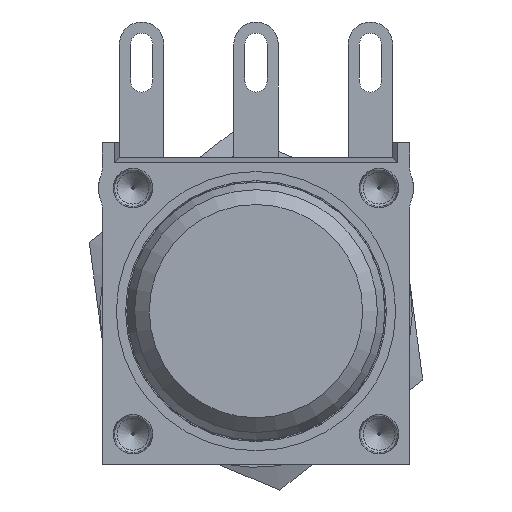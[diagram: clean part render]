
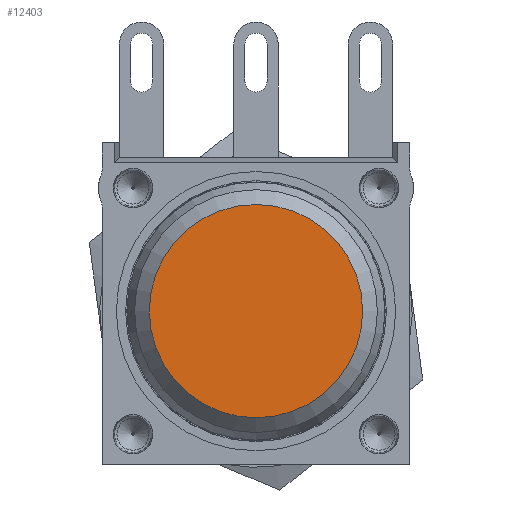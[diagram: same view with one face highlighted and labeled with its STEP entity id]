
A CAD part, left-side view. The second image highlights one B-rep face of the part: STEP entity #12403.
In plain terms, the highlighted planar face has unit normal (-1, 0, 0) as drawn and (0, 0, 1) by its records, which use the part's own axes.
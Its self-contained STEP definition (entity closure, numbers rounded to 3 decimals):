
#984=CIRCLE('',#14059,4.334);
#2913=ORIENTED_EDGE('',*,*,#5563,.T.);
#5563=EDGE_CURVE('',#7048,#7048,#984,.T.);
#7048=VERTEX_POINT('',#20089);
#10111=EDGE_LOOP('',(#2913));
#11113=FACE_BOUND('',#10111,.T.);
#11871=PLANE('',#14058);
#12403=ADVANCED_FACE('',(#11113),#11871,.T.);
#14058=AXIS2_PLACEMENT_3D('',#20087,#16411,#16412);
#14059=AXIS2_PLACEMENT_3D('',#20088,#16413,#16414);
#16411=DIRECTION('',(0.,0.,1.));
#16412=DIRECTION('',(1.,0.,0.));
#16413=DIRECTION('',(0.,0.,1.));
#16414=DIRECTION('',(1.,0.,0.));
#20087=CARTESIAN_POINT('',(0.,0.,1.4));
#20088=CARTESIAN_POINT('',(0.,0.,1.4));
#20089=CARTESIAN_POINT('',(4.334,0.,1.4));
